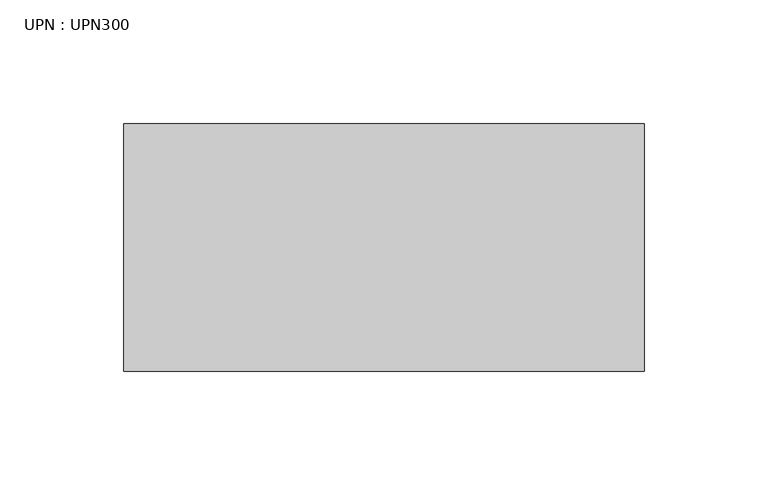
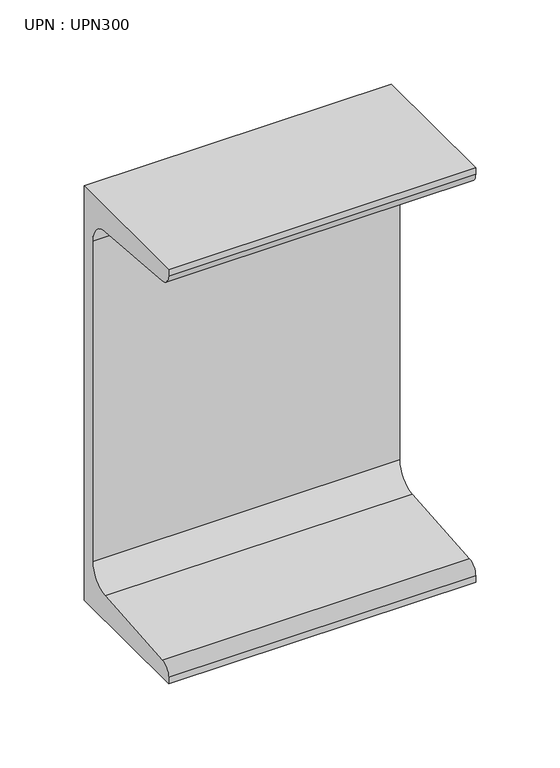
"""IFC4 building model written with IfcOpenShell, lengths in millimetres: beam geometry, UPN : UPN300."""

from ifc_helpers import new_model, si_unit, point, frame, frame_2d, origin, place, context, project, spatial, polyline, circle_curve, trimmed, segment, composite_curve, outline, extrude, source, transform, mapped, element, save


def upn_upn300_d5f8aff8(model_context):
    return source(origin(), model_context, "Body", "SweptSolid", [
        extrude(outline(composite_curve([segment(polyline([(27.0, 150.0), (27.0, -150.0), (-73.0, -150.0), (-73.0, -145.3826224)]), True, "CONTINUOUS"), segment(trimmed(circle_curve(frame_2d((-65.0, -145.3826224)), 8.0), [point((-73.0, -145.3826224))], [point((-65.637416, -137.4080566))], False, "CARTESIAN"), True, "CONTINUOUS"), segment(polyline([(-65.637416, -137.4080566), (2.274832, -131.9797543)]), True, "CONTINUOUS"), segment(trimmed(circle_curve(frame_2d((1.0, -116.0306225)), 16.0), [point((2.274832, -131.9797543))], [point((17.0, -116.0306225))], True, "CARTESIAN"), True, "CONTINUOUS"), segment(polyline([(17.0, -116.0306225), (17.0, 116.0306225)]), True, "CONTINUOUS"), segment(trimmed(circle_curve(frame_2d((1.0, 116.0306225)), 16.0), [point((17.0, 116.0306225))], [point((2.274832, 131.9797543))], True, "CARTESIAN"), True, "CONTINUOUS"), segment(polyline([(2.274832, 131.9797543), (-65.637416, 137.4080566)]), True, "CONTINUOUS"), segment(trimmed(circle_curve(frame_2d((-65.0, 145.3826224)), 8.0), [point((-65.637416, 137.4080566))], [point((-73.0, 145.3826224))], False, "CARTESIAN"), True, "CONTINUOUS"), segment(polyline([(-73.0, 145.3826224), (-73.0, 150.0), (27.0, 150.0)]), True, "CONTINUOUS")], self_intersect=False)), frame((-118.1446081, 0.0, 0.0), z_axis=(1.0, 0.0, 0.0), x_axis=(0.0, 1.0, 0.0)), (0.0, 0.0, 1.0), 210.3946081),
    ])


if __name__ == "__main__":
    model = new_model("IFC4")
    model_context = context("Model", 3, world=origin())
    ifc_project = project(units=[si_unit("LENGTHUNIT", "METRE", prefix="MILLI")], contexts=[model_context])
    site = spatial("IfcSite", under=ifc_project)
    building = spatial("IfcBuilding", under=site)
    placement = place(None, origin())
    upn_upn300_shape = upn_upn300_d5f8aff8(model_context)
    element("IfcBeam", 1, ObjectType="UPN : UPN300", at=placement, inside=building, context=model_context, shape_type="MappedRepresentation", body=[
        mapped(upn_upn300_shape, transform((0.0, 0.0, 0.0), x_axis=(1.0, 0.0, 0.0), y_axis=(0.0, 1.0, 0.0), z_axis=(0.0, 0.0, 1.0))),
    ])
    save(model, "model.ifc")
